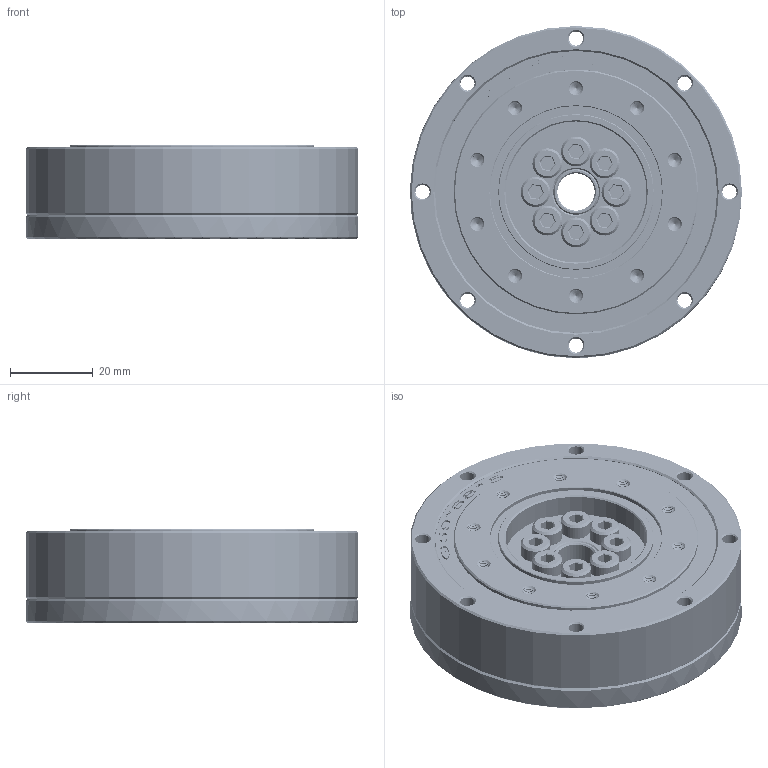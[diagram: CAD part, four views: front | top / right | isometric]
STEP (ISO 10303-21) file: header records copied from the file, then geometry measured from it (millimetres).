
FILE_DESCRIPTION(/* description */ (''),/* implementation_level */ '2;1');
FILE_NAME(/* name */ 'XBZ17成品图.prt.stp',/* time_stamp */ '2022-07-23T08:57:06+08:00',/* author */ (''),/* organization */ (''),/* preprocessor_version */ 'ST-DEVELOPER v16',/* originating_system */ 'SIEMENS PLM Software NX 10.0',/* authorisation */ '');
FILE_SCHEMA (('CONFIG_CONTROL_DESIGN'));
Length unit declared in the file: millimetre
Products named in the file (11): 17-\X2\67D460278F74627F4FDD630167B6FF0865E568078D858584
FF09\X0\; M4X8; XBZ17-2-1柔轮压板; XBD17-3-1凸轮; XBZ17-2柔轮; M2.5X8; XBZ17-1钢轮; G59685; XBZ17-4-1内芯; 17-柔性轴承（日标超薄）_MOD
EL; XBZ17成品图
Assembly tree (20 placements, depth 3):
  XBZ17成品图
    XBZ17-4-1内芯
    G59685
    XBZ17-1钢轮
    M2.5X8  x4
    XBZ17-2柔轮
    17-柔性轴承（日标超薄）_MOD
EL
      17-\X2\67D460278F74627F4FDD630167B6FF0865E568078D858584
FF09\X0\
    XBD17-3-1凸轮
    XBZ17-2-1柔轮压板
    M4X8  x8
Bounding box: 80 x 80 x 22.7 mm (x, y, z)
Volume: 83524.7 mm3; surface area: 60111 mm2
Topology: 43 solids, 43 shells, 1024 faces, 2575 edges, 1651 vertices
Faces by surface type: plane 392, cylinder 244, cone 217, bspline 101, extrusion 42, sphere 21, torus 7
Full cylindrical faces by diameter (mm): 2.5 x48, 3 x4, 3.4 x8, 3.5 x8, 4.5 x16, 4.7 x4, 4.8 x4, 7.22 x8, 9 x1, 11 x3, 15 x1, 27.2 x2, 29 x1, 30.3 x1, 31.5 x1, 32.5 x1, 33.3 x2, 33.5 x1, 34 x1, 36 x1, 37.5 x1, 38.9 x1, 39.772 x2, 41.5 x1, 41.722 x2, 42.9 x1, 44 x1, 45 x1, 53.7 x1, 56 x1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
Entity records: 123230 total; most frequent: CARTESIAN_POINT 107182, ORIENTED_EDGE 2780, DIRECTION 2614, EDGE_CURVE 1390, EDGE_LOOP 1107, AXIS2_PLACEMENT_3D 1083, VERTEX_POINT 1069, FACE_BOUND 778
